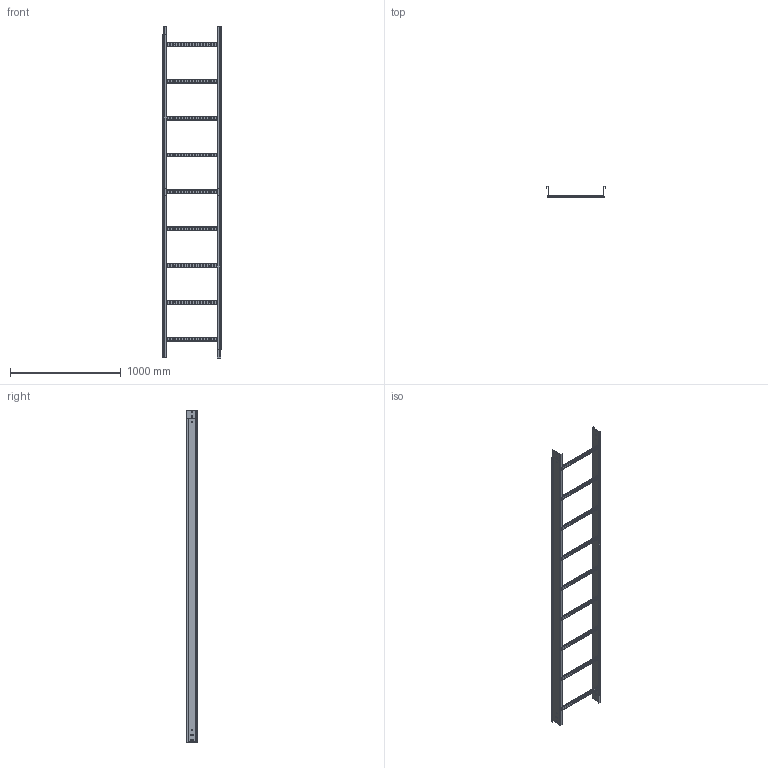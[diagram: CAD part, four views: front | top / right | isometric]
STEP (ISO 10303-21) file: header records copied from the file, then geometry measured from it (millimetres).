
FILE_DESCRIPTION (( 'STEP AP203' ), '1' );
FILE_NAME ('500X100x1,5.step', '2023-08-01T07:30:03', ( '' ), ( '' ), 'SwSTEP 2.0', 'SolidWorks 2022', '' );
FILE_SCHEMA (( 'CONFIG_CONTROL_DESIGN' ));
Length unit declared in the file: millimetre
Products named in the file (3): 500X100x1,5; Montante FER GS_100x1,5; Travesaño RAT35 FER GS_500
Assembly tree (11 placements, depth 2):
  500X100x1,5
    Montante FER GS_100x1,5  x2
    Travesaño RAT35 FER GS_500  x9
Bounding box: 532 x 101.5 x 3000 mm (x, y, z)
Volume: 447575.3 mm3; surface area: 2471707.8 mm2
Topology: 9 solids, 13 shells, 1458 faces, 3846 edges, 2448 vertices
Faces by surface type: plane 796, cylinder 514, torus 144, bspline 4
Entity records: 8465 total; most frequent: CARTESIAN_POINT 1738, DIRECTION 1343, ORIENTED_EDGE 1254, EDGE_CURVE 635, AXIS2_PLACEMENT_3D 481, VERTEX_POINT 412, VECTOR 381, LINE 381
